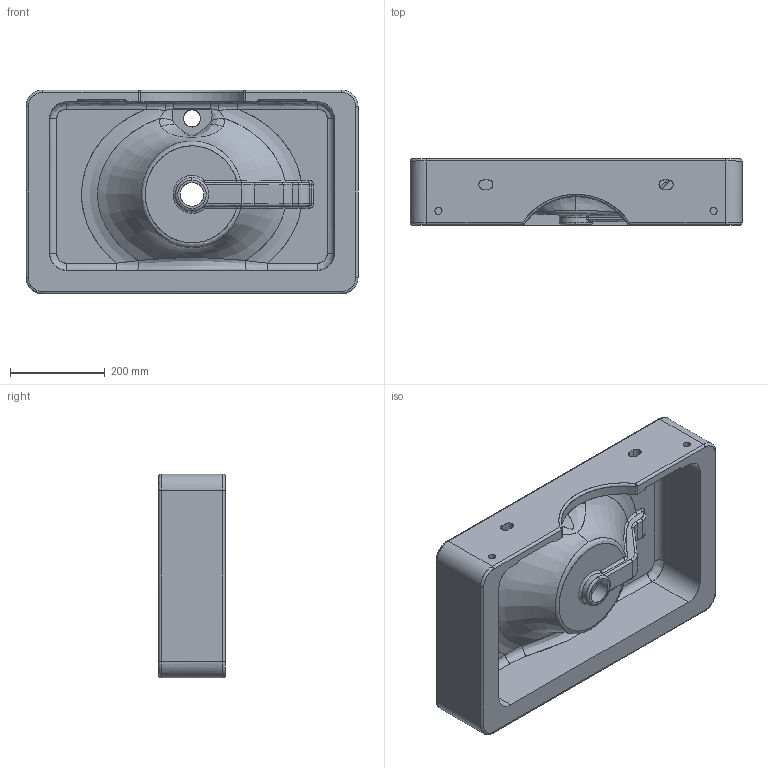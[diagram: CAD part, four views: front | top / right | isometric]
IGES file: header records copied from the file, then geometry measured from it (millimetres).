
Start section: C
Global section: file name: Lines R 70x44.igs; native system:  By UGS Corp.; preprocessor: XPlus GENERIC/IGES 3.0; author: Author; organization: Title; date: 20140131.123225; units: millimetre
Bounding box: 700 x 140 x 430 mm (x, y, z)
Surface area: 1184265.9 mm2 (no closed solid volume)
Topology: 0 solids, 0 shells, 170 faces, 857 edges, 851 vertices
Faces by surface type: bspline 170
